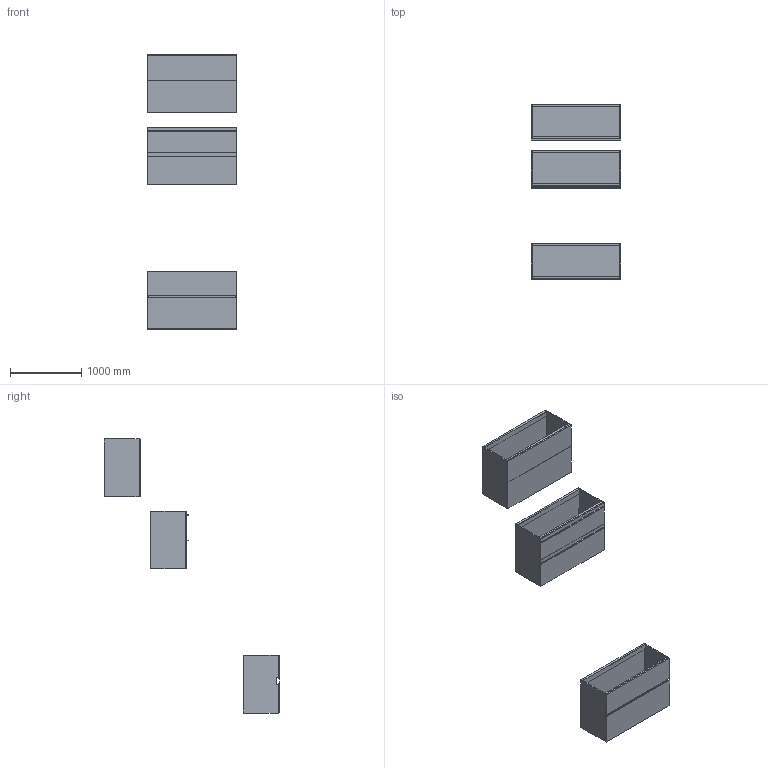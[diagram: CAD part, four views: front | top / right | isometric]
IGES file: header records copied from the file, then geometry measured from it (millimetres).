
Start section: Data from Parasolid IGES Translator 19.0.9, Copyright(c) 2006 Siemens PL M Software. All Rights Reserved.
Global section: file name: noorth-SI-H 81,2 D 51 W 126_9724.igs; native system: By Siemens PLM Incorporated; preprocessor: XPlus GENERIC/IGES 19.0.9; author: Noname; organization: Noname; date: 20200601.141047; units: metre
Bounding box: 1260 x 2458 x 3842 mm (x, y, z)
Volume: 143272041 mm3; surface area: 22523030.7 mm2
Topology: 27 solids, 27 shells, 266 faces, 580 edges, 348 vertices
Faces by surface type: plane 182, extrusion 36, bspline 32, cylinder 16
